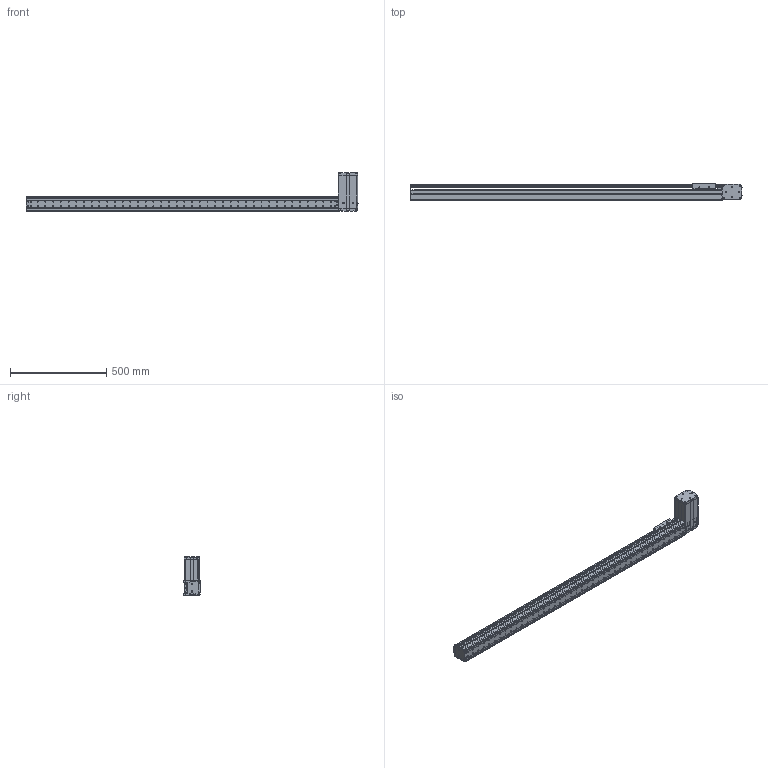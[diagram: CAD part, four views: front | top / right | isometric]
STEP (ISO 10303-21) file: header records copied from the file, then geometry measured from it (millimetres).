
FILE_DESCRIPTION((''),'2;1');
FILE_NAME('BE10_-BR-M_N-E0_IGS_PRT','2017-06-18T',(' '),(''),'PRO/ENGINEER BY PARAMETRIC TECHNOLOGY CORPORATION, 2015030','PRO/ENGINEER BY PARAMETRIC TECHNOLOGY CORPORATION, 2015030','');
FILE_SCHEMA(('CONFIG_CONTROL_DESIGN'));
Products named in the file (1): BE10_-BR-M_N-E0_IGS_PRT
Bounding box: 1720.8 x 85 x 200.22 mm (x, y, z)
Volume: 2401206.6 mm3; surface area: 1623142.9 mm2
Topology: 2 solids, 167 shells, 2291 faces, 6265 edges, 4151 vertices
Faces by surface type: plane 1073, cylinder 1055, cone 107, sphere 28, torus 25, bspline 3
Entity records: 74833 total; most frequent: CARTESIAN_POINT 15350, DIRECTION 12655, ORIENTED_EDGE 11818, EDGE_CURVE 6203, AXIS2_PLACEMENT_3D 4605, VERTEX_POINT 4151, VECTOR 3445, LINE 3445
